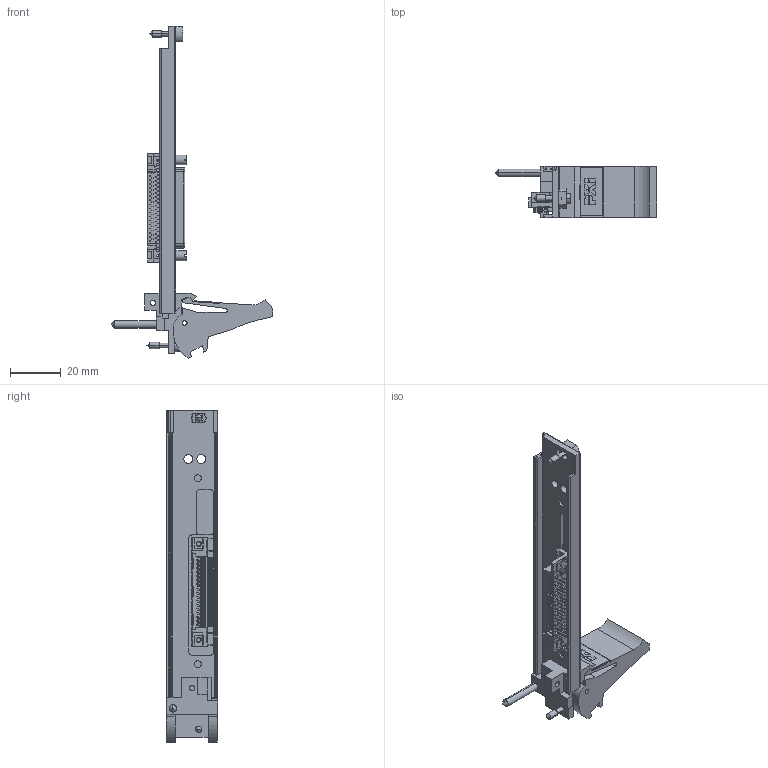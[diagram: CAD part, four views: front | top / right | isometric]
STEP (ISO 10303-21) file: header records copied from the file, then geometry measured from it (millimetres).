
FILE_DESCRIPTION((''),'2;1');
FILE_NAME('MODULE_PBD_SS_ASM','2018-06-29T',('huydo'),(''),'CREO PARAMETRIC BY PTC INC, 2017480','CREO PARAMETRIC BY PTC INC, 2017480','');
FILE_SCHEMA(('AUTOMOTIVE_DESIGN { 1 0 10303 214 1 1 1 1 }'));
Length unit declared in the file: inch
Products named in the file (16): CONN_VHDCI_SINGLE_71430-0013_P; CONN_VHDCI_SINGLE_71430-0013_ASM; CCA_PBD_BASE_ASM; FP_PBD_SS; SCHROFF_PRESS_SLEEVE; FP_PBD_SS_ASM; SCREW_CAPTIVE_COMBO-HEAD_M25_SS; BTNHD_TORX_M2545X5_NYLPATCH_SS; OVERLAY_PBD_SS; PXIE_HANDLE_RITTAL_BODY; PXIE_HANDLE_RITTAL_HANDLE; LABEL_PXI_EJECTOR_HANDLE_LOGO; PXIE_HANDLE_RITTAL_W_LABEL_ASM; FPASSY_PBD_SS_ASM; SCREWLOCK_BOARDMOUNT_CHAMP; MODULE_PBD_SS_ASM
Assembly tree (17 placements, depth 4):
  MODULE_PBD_SS_ASM
    CCA_PBD_BASE_ASM
      CONN_VHDCI_SINGLE_71430-0013_ASM
        CONN_VHDCI_SINGLE_71430-0013_P
    FPASSY_PBD_SS_ASM
      FP_PBD_SS_ASM
        FP_PBD_SS
        SCHROFF_PRESS_SLEEVE
      SCREW_CAPTIVE_COMBO-HEAD_M25_SS
      BTNHD_TORX_M2545X5_NYLPATCH_SS
      OVERLAY_PBD_SS
      PXIE_HANDLE_RITTAL_W_LABEL_ASM
        PXIE_HANDLE_RITTAL_BODY
        PXIE_HANDLE_RITTAL_HANDLE
        LABEL_PXI_EJECTOR_HANDLE_LOGO
        SCREW_CAPTIVE_COMBO-HEAD_M25_SS
    SCREWLOCK_BOARDMOUNT_CHAMP  x2
Bounding box: 63.53 x 20.17 x 130.52 mm (x, y, z)
Volume: 15895.9 mm3; surface area: 21154.2 mm2
Topology: 12 solids, 12 shells, 2112 faces, 5699 edges, 3759 vertices
Faces by surface type: plane 1633, cylinder 401, cone 28, bspline 25, extrusion 10, torus 9, sphere 6
Entity records: 91805 total; most frequent: CARTESIAN_POINT 18127, ORIENTED_EDGE 11118, DIRECTION 10299, PRESENTATION_STYLE_ASSIGNMENT 5744, STYLED_ITEM 5571, CURVE_STYLE 5561, EDGE_CURVE 5559, VECTOR 4599
